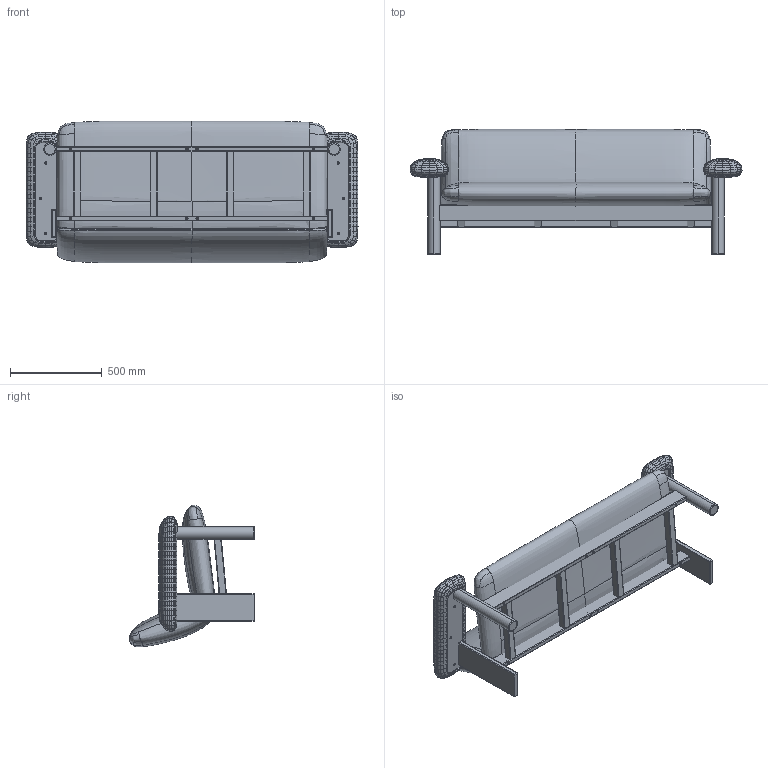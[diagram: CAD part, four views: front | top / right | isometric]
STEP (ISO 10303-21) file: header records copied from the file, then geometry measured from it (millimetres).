
FILE_DESCRIPTION (( 'STEP AP214' ), '1' );
FILE_NAME ('Brasilia Sofa sheepskin.STEP', '2024-07-02T08:39:02', ( '' ), ( '' ), 'SwSTEP 2.0', 'SolidWorks 2022', '' );
FILE_SCHEMA (( 'AUTOMOTIVE_DESIGN' ));
Products named in the file (18): MirrorBrasilia Sofa 2 - leg back; Brasilia Sofa 2 - armrest 2; Brasilia Sofa 2 - leg front; MirrorBrasilia Sofa 2 - leg front; Brasilia Sofa 2 - armrest 1; Brasilia Sofa 2 - seat-back upholstery; MirrorBrasilia Sofa 2 - armrest 1; Brasilia Sofa 2 - joinery side; MirrorBrasilia Sofa 2 - joinery side; Brasilia Sofa sheepskin; Brasilia Sofa 2 - joinery back; MirrorBrasilia Sofa 2 - armrest 2; Brasilia Sofa 2 - joinery side 2; MirrorBrasilia Sofa 2 - joinery side 2; Brasilia Sofa 2 - joinery front; MirrorBrasilia Sofa 2 - armrest upholstery; Brasilia Sofa 2 - leg back; Brasilia Sofa 2 - armrest upholstery
Assembly tree (17 placements, depth 2):
  Brasilia Sofa sheepskin
    Brasilia Sofa 2 - leg front
    Brasilia Sofa 2 - leg back
    Brasilia Sofa 2 - joinery front
    Brasilia Sofa 2 - joinery back
    Brasilia Sofa 2 - joinery side
    Brasilia Sofa 2 - joinery side 2
    Brasilia Sofa 2 - armrest 1
    Brasilia Sofa 2 - armrest 2
    MirrorBrasilia Sofa 2 - leg front
    MirrorBrasilia Sofa 2 - leg back
    MirrorBrasilia Sofa 2 - joinery side
    MirrorBrasilia Sofa 2 - armrest 1
    MirrorBrasilia Sofa 2 - armrest 2
    Brasilia Sofa 2 - seat-back upholstery
    Brasilia Sofa 2 - armrest upholstery
    MirrorBrasilia Sofa 2 - armrest upholstery
    MirrorBrasilia Sofa 2 - joinery side 2
Bounding box: 1809.06 x 681.76 x 770.52 mm (x, y, z)
Volume: 235809518.9 mm3; surface area: 6813767.5 mm2
Topology: 20 solids, 20 shells, 3062 faces, 6500 edges, 3478 vertices
Faces by surface type: bspline 2814, cylinder 122, plane 102, cone 12, sphere 8, torus 4
Entity records: 957946 total; most frequent: CARTESIAN_POINT 913523, ORIENTED_EDGE 12984, EDGE_CURVE 6492, B_SPLINE_CURVE_WITH_KNOTS 5882, VERTEX_POINT 3478, EDGE_LOOP 3110, ADVANCED_FACE 3062, FACE_OUTER_BOUND 3062
